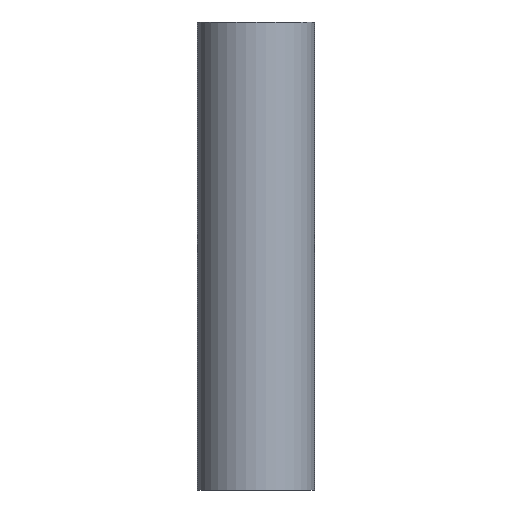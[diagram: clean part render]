
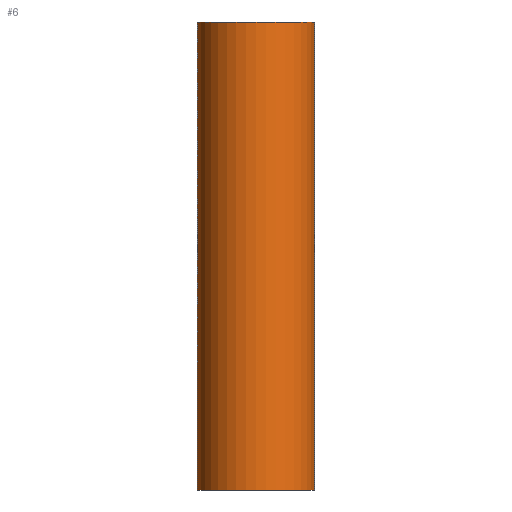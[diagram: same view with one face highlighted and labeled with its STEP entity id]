
A CAD part, front view. The second image highlights one B-rep face of the part: STEP entity #6.
In plain terms, the highlighted cylindrical face has radius 6.25 mm (diameter 12.5 mm), a partial arc.
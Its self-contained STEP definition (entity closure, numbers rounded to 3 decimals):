
#1 = CIRCLE ( 'NONE', #211, 6.25 ) ;
#6 = ADVANCED_FACE ( 'NONE', ( #119 ), #83, .T. ) ;
#11 = ORIENTED_EDGE ( 'NONE', *, *, #110, .T. ) ;
#15 = CARTESIAN_POINT ( 'NONE',  ( 6.25, 0., 0. ) ) ;
#34 = EDGE_CURVE ( 'NONE', #89, #144, #280, .T. ) ;
#39 = ORIENTED_EDGE ( 'NONE', *, *, #219, .T. ) ;
#44 = CARTESIAN_POINT ( 'NONE',  ( 0., 0., 50. ) ) ;
#50 = DIRECTION ( 'NONE',  ( 0., 0., 1. ) ) ;
#55 = ORIENTED_EDGE ( 'NONE', *, *, #34, .F. ) ;
#66 = DIRECTION ( 'NONE',  ( 0., 0., -1. ) ) ;
#69 = CARTESIAN_POINT ( 'NONE',  ( -6.25, 0., 0. ) ) ;
#75 = VECTOR ( 'NONE', #66, 1000. ) ;
#76 = CARTESIAN_POINT ( 'NONE',  ( 0., 0., 0. ) ) ;
#77 = DIRECTION ( 'NONE',  ( 0., 0., -1. ) ) ;
#83 = CYLINDRICAL_SURFACE ( 'NONE', #238, 6.25 ) ;
#85 = VERTEX_POINT ( 'NONE', #69 ) ;
#86 = CARTESIAN_POINT ( 'NONE',  ( 0., 0., 50. ) ) ;
#89 = VERTEX_POINT ( 'NONE', #249 ) ;
#110 = EDGE_CURVE ( 'NONE', #230, #85, #275, .T. ) ;
#114 = DIRECTION ( 'NONE',  ( 0., 0., -1. ) ) ;
#119 = FACE_OUTER_BOUND ( 'NONE', #255, .T. ) ;
#144 = VERTEX_POINT ( 'NONE', #15 ) ;
#164 = AXIS2_PLACEMENT_3D ( 'NONE', #44, #220, #193 ) ;
#165 = VECTOR ( 'NONE', #77, 1000. ) ;
#193 = DIRECTION ( 'NONE',  ( 1., 0., 0. ) ) ;
#204 = EDGE_CURVE ( 'NONE', #230, #89, #252, .T. ) ;
#211 = AXIS2_PLACEMENT_3D ( 'NONE', #76, #50, #248 ) ;
#213 = CARTESIAN_POINT ( 'NONE',  ( 6.25, 0., 50. ) ) ;
#219 = EDGE_CURVE ( 'NONE', #85, #144, #1, .T. ) ;
#220 = DIRECTION ( 'NONE',  ( 0., 0., 1. ) ) ;
#230 = VERTEX_POINT ( 'NONE', #270 ) ;
#238 = AXIS2_PLACEMENT_3D ( 'NONE', #86, #114, #260 ) ;
#239 = CARTESIAN_POINT ( 'NONE',  ( -6.25, 0., 50. ) ) ;
#247 = ORIENTED_EDGE ( 'NONE', *, *, #204, .F. ) ;
#248 = DIRECTION ( 'NONE',  ( 1., 0., 0. ) ) ;
#249 = CARTESIAN_POINT ( 'NONE',  ( 6.25, 0., 50. ) ) ;
#252 = CIRCLE ( 'NONE', #164, 6.25 ) ;
#255 = EDGE_LOOP ( 'NONE', ( #55, #247, #11, #39 ) ) ;
#260 = DIRECTION ( 'NONE',  ( -1., 0., 0. ) ) ;
#270 = CARTESIAN_POINT ( 'NONE',  ( -6.25, 0., 50. ) ) ;
#275 = LINE ( 'NONE', #239, #165 ) ;
#280 = LINE ( 'NONE', #213, #75 ) ;
